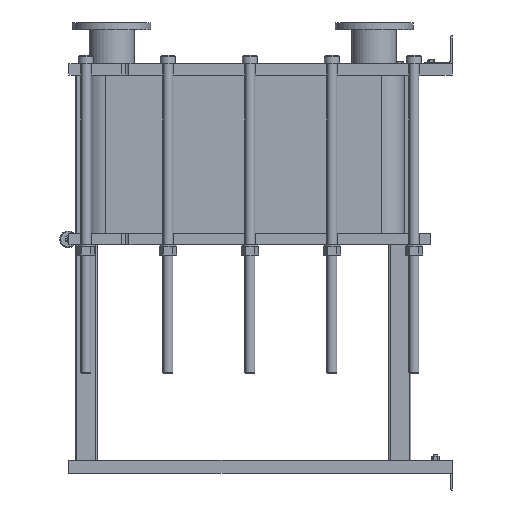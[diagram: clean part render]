
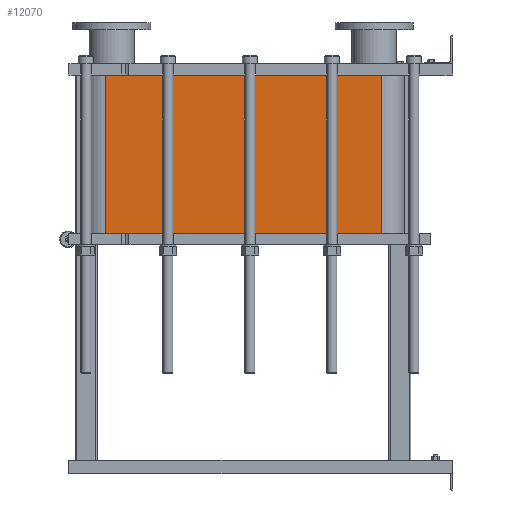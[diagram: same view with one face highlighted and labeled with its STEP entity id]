
A CAD part, left-side view. The second image highlights one B-rep face of the part: STEP entity #12070.
In plain terms, the highlighted planar face has unit normal (-1, 0, 0).
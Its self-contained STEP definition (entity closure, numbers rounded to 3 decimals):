
#1064=LINE('',#21140,#2164);
#1065=LINE('',#21144,#2165);
#1066=LINE('',#21146,#2166);
#1067=LINE('',#21147,#2167);
#2164=VECTOR('',#15790,10.);
#2165=VECTOR('',#15795,10.);
#2166=VECTOR('',#15796,10.);
#2167=VECTOR('',#15797,10.);
#3304=FACE_OUTER_BOUND('',#4091,.T.);
#4091=EDGE_LOOP('',(#9793,#9794,#9795,#9796));
#5677=VERTEX_POINT('',#21137);
#5678=VERTEX_POINT('',#21139);
#5679=VERTEX_POINT('',#21143);
#5680=VERTEX_POINT('',#21145);
#7118=EDGE_CURVE('',#5678,#5677,#1064,.T.);
#7120=EDGE_CURVE('',#5677,#5679,#1065,.T.);
#7121=EDGE_CURVE('',#5680,#5679,#1066,.T.);
#7122=EDGE_CURVE('',#5680,#5678,#1067,.T.);
#9793=ORIENTED_EDGE('',*,*,#7120,.T.);
#9794=ORIENTED_EDGE('',*,*,#7121,.F.);
#9795=ORIENTED_EDGE('',*,*,#7122,.T.);
#9796=ORIENTED_EDGE('',*,*,#7118,.T.);
#11441=PLANE('',#13191);
#12070=ADVANCED_FACE('',(#3304),#11441,.T.);
#13191=AXIS2_PLACEMENT_3D('',#21142,#15793,#15794);
#15790=DIRECTION('',(0.,0.,-1.));
#15793=DIRECTION('center_axis',(-1.,0.,0.));
#15794=DIRECTION('ref_axis',(0.,1.,0.));
#15795=DIRECTION('',(0.,-1.,0.));
#15796=DIRECTION('',(0.,0.,-1.));
#15797=DIRECTION('',(0.,1.,0.));
#21137=CARTESIAN_POINT('',(-248.152,1243.818,-569.25));
#21139=CARTESIAN_POINT('',(-248.152,1243.818,0.));
#21140=CARTESIAN_POINT('',(-248.152,1243.818,0.));
#21142=CARTESIAN_POINT('Origin',(-248.152,251.818,0.));
#21143=CARTESIAN_POINT('',(-248.152,251.818,-569.25));
#21144=CARTESIAN_POINT('',(-248.152,499.818,-569.25));
#21145=CARTESIAN_POINT('',(-248.152,251.818,0.));
#21146=CARTESIAN_POINT('',(-248.152,251.818,0.));
#21147=CARTESIAN_POINT('',(-248.152,251.818,0.));
